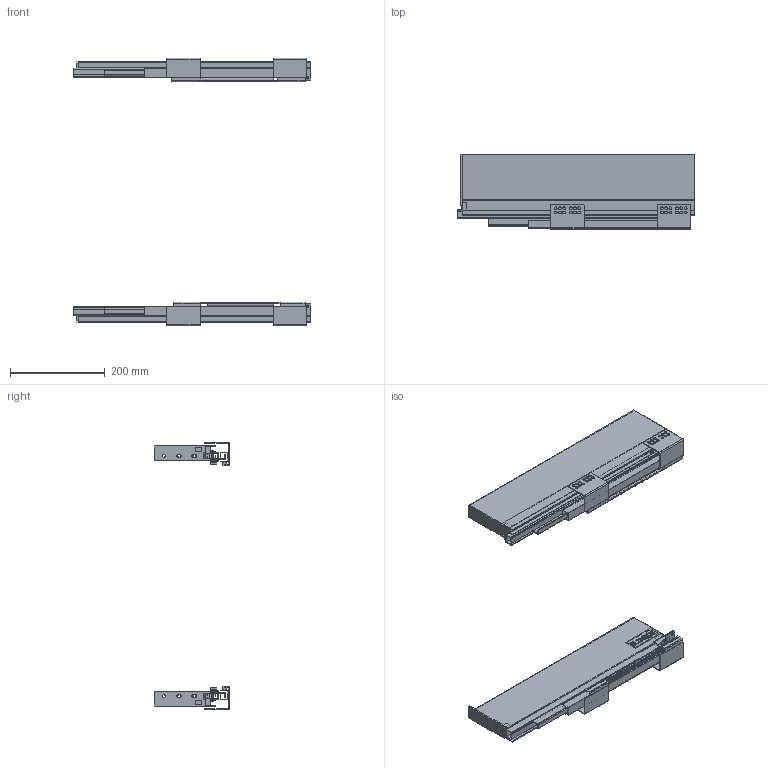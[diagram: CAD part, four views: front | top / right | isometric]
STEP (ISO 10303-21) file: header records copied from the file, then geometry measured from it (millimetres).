
FILE_DESCRIPTION(/* description */ (''),/* implementation_level */ '2;1');
FILE_NAME(/* name */ 'C:\Users\dmitruk\Documents\WORK\\X2\041D0410041F042004100412041B042F042E042904180415\X0\\SLIMBOX\SLIMBOX\SLIMBOX H128 L-500.stp',/* time_stamp */ '2022-04-19T17:19:21+03:00',/* author */ ('dmitruk'),/* organization */ ('AKS'),/* preprocessor_version */ 'ST-DEVELOPER v16.5',/* originating_system */ 'Autodesk Inventor 2017',/* authorisation */ '');
FILE_SCHEMA (('AUTOMOTIVE_DESIGN { 1 0 10303 214 3 1 1 }'));
Length unit declared in the file: millimetre
Products named in the file (12): SLIMBOX 90 мм правый; Боковина SLIMBOX _2; Направляющие \X2\0441043A
0440044B0442043E0433043E\X0\ монтажа \X2\043F
043E043B043D043E0433043E\X0\ \X2\0432044B04340432043804360435043D0438044F
\X0\ SLIMBOX-01; CR SLIMBOX-500; DR SLIMBOX; Крепление \X2\04440430
0441043004340430\X0\ SLIMBOX прав; CR SLIMBOX-500_1; DL SLIMBOX; Крепление \X2\04440430
0441043004340430\X0\ SLIMBOX лев; slim DW; Крепление к 
фасаду; Заглушка SLIMBOX
Assembly tree (14 placements, depth 3):
  SLIMBOX 90 мм правый
    Боковина SLIMBOX _2
    Направляющие \X2\0441043A
0440044B0442043E0433043E\X0\ монтажа \X2\043F
043E043B043D043E0433043E\X0\ \X2\0432044B04340432043804360435043D0438044F
\X0\ SLIMBOX-01
      CR SLIMBOX-500
      DR SLIMBOX
      slim DW  x2
      Крепление \X2\04440430
0441043004340430\X0\ SLIMBOX прав
      CR SLIMBOX-500_1
      DL SLIMBOX
      Крепление \X2\04440430
0441043004340430\X0\ SLIMBOX лев
    Крепление к 
фасаду  x2
    Заглушка SLIMBOX  x2
Bounding box: 500 x 157.5 x 564 mm (x, y, z)
Volume: 635787.9 mm3; surface area: 938684.8 mm2
Topology: 31 solids, 31 shells, 1329 faces, 3632 edges, 2425 vertices
Faces by surface type: plane 963, cylinder 350, cone 16
Full cylindrical faces by diameter (mm): 3 x2, 3.8 x4, 4 x4, 4.8 x4, 6 x48, 7.603 x4, 7.801 x2, 8.085 x2, 10.37 x2, 11 x4, 12.231 x2
Entity records: 34937 total; most frequent: CARTESIAN_POINT 5956, ORIENTED_EDGE 5752, DIRECTION 5657, EDGE_CURVE 2876, LINE 2345, VECTOR 2345, VERTEX_POINT 1955, AXIS2_PLACEMENT_3D 1656
